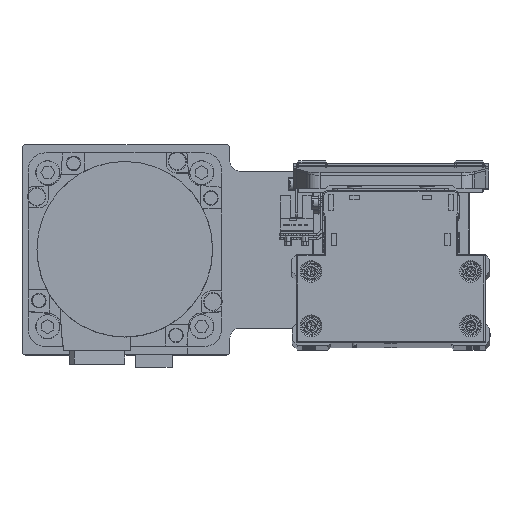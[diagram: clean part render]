
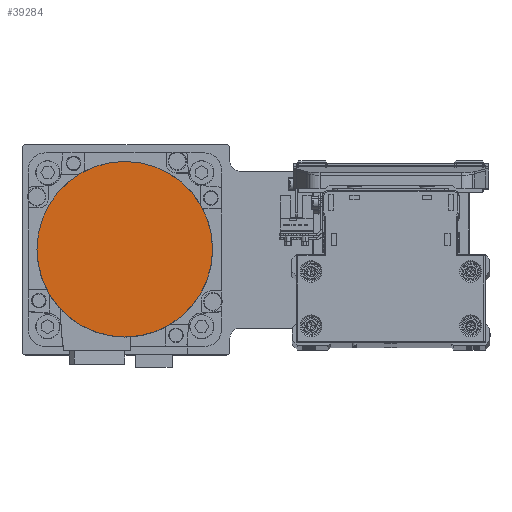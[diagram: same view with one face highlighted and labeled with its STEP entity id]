
A CAD part, top view. The second image highlights one B-rep face of the part: STEP entity #39284.
In plain terms, the highlighted planar face has unit normal (0, 0, 1) as drawn and (0, 0, -1) by its records, which use the part's own axes.
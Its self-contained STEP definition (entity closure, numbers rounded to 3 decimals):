
#1217 = EDGE_CURVE ( 'NONE', #24322, #14284, #36652, .T. ) ;
#7870 = DIRECTION ( 'NONE',  ( 0., 1., 0. ) ) ;
#9036 = DIRECTION ( 'NONE',  ( 0., 0., 1. ) ) ;
#10283 = CARTESIAN_POINT ( 'NONE',  ( 0., 36.3, -122.2 ) ) ;
#10803 = DIRECTION ( 'NONE',  ( 0., -1., 0. ) ) ;
#11488 = ORIENTED_EDGE ( 'NONE', *, *, #29601, .F. ) ;
#12095 = FACE_OUTER_BOUND ( 'NONE', #36152, .T. ) ;
#14284 = VERTEX_POINT ( 'NONE', #23294 ) ;
#15421 = AXIS2_PLACEMENT_3D ( 'NONE', #36941, #9036, #21483 ) ;
#16056 = AXIS2_PLACEMENT_3D ( 'NONE', #26302, #38716, #10803 ) ;
#19110 = AXIS2_PLACEMENT_3D ( 'NONE', #23359, #35772, #7870 ) ;
#21483 = DIRECTION ( 'NONE',  ( 1., 0., 0. ) ) ;
#23294 = CARTESIAN_POINT ( 'NONE',  ( 0., -36.3, -122.2 ) ) ;
#23359 = CARTESIAN_POINT ( 'NONE',  ( 0., 0., -122.2 ) ) ;
#24322 = VERTEX_POINT ( 'NONE', #10283 ) ;
#24528 = PLANE ( 'NONE',  #15421 ) ;
#26302 = CARTESIAN_POINT ( 'NONE',  ( 0., 0., -122.2 ) ) ;
#29601 = EDGE_CURVE ( 'NONE', #14284, #24322, #33615, .T. ) ;
#31659 = ORIENTED_EDGE ( 'NONE', *, *, #1217, .F. ) ;
#33615 = CIRCLE ( 'NONE', #16056, 36.3 ) ;
#35772 = DIRECTION ( 'NONE',  ( 0., 0., 1. ) ) ;
#36152 = EDGE_LOOP ( 'NONE', ( #31659, #11488 ) ) ;
#36652 = CIRCLE ( 'NONE', #19110, 36.3 ) ;
#36941 = CARTESIAN_POINT ( 'NONE',  ( 0., 0., -122.2 ) ) ;
#38716 = DIRECTION ( 'NONE',  ( 0., 0., 1. ) ) ;
#39284 = ADVANCED_FACE ( 'NONE', ( #12095 ), #24528, .F. ) ;
